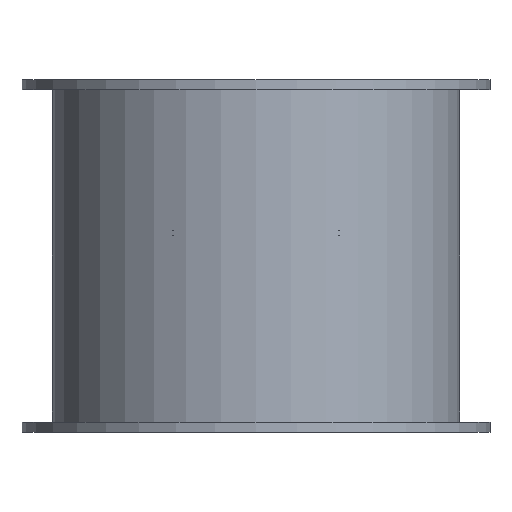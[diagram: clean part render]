
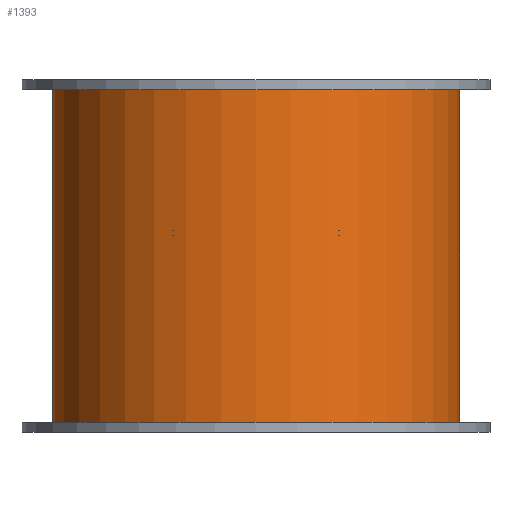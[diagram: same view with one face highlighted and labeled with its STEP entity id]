
A CAD part, left-side view. The second image highlights one B-rep face of the part: STEP entity #1393.
In plain terms, the highlighted cylindrical face has radius 40.5 mm (diameter 81 mm), a full revolution.
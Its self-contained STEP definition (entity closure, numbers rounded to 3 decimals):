
#607=CARTESIAN_POINT('',(-40.5,0.,-33.0));
#608=VERTEX_POINT('',#607);
#609=CARTESIAN_POINT('',(0.0,0.0,-33.0));
#610=DIRECTION('',(0.0,0.0,1.0));
#611=DIRECTION('',(-1.0,0.0,0.0));
#612=AXIS2_PLACEMENT_3D('',#609,#610,#611);
#613=CIRCLE('',#612,40.5);
#614=EDGE_CURVE('',#608,#608,#613,.T.);
#655=CARTESIAN_POINT('',(40.5,0.,33.0));
#656=VERTEX_POINT('',#655);
#657=CARTESIAN_POINT('',(0.0,0.0,33.0));
#658=DIRECTION('',(0.0,0.0,-1.0));
#659=DIRECTION('',(-1.0,0.0,0.0));
#660=AXIS2_PLACEMENT_3D('',#657,#658,#659);
#661=CIRCLE('',#660,40.5);
#662=EDGE_CURVE('',#656,#656,#661,.T.);
#1044=CARTESIAN_POINT('',(35.217,-20.,7.));
#1045=VERTEX_POINT('',#1044);
#1046=CARTESIAN_POINT('',(35.217,20.,7.));
#1047=VERTEX_POINT('',#1046);
#1048=CARTESIAN_POINT('',(0.0,0.0,7.));
#1049=DIRECTION('',(0.0,0.0,1.0));
#1050=DIRECTION('',(-1.0,0.0,0.0));
#1051=AXIS2_PLACEMENT_3D('',#1048,#1049,#1050);
#1052=CIRCLE('',#1051,40.5);
#1053=EDGE_CURVE('',#1045,#1047,#1052,.T.);
#1088=CARTESIAN_POINT('',(31.863,-25.0,2.));
#1089=VERTEX_POINT('',#1088);
#1090=CARTESIAN_POINT('',(0.0,0.0,27.));
#1091=DIRECTION('',(0.0,-0.707,0.707));
#1092=DIRECTION('',(0.0,-0.707,-0.707));
#1093=AXIS2_PLACEMENT_3D('',#1090,#1091,#1092);
#1094=ELLIPSE('',#1093,57.276,40.5);
#1095=EDGE_CURVE('',#1089,#1045,#1094,.T.);
#1120=CARTESIAN_POINT('',(31.863,25.0,2.));
#1121=VERTEX_POINT('',#1120);
#1122=CARTESIAN_POINT('',(0.0,0.0,27.));
#1123=DIRECTION('',(0.0,0.707,0.707));
#1124=DIRECTION('',(0.0,-0.707,0.707));
#1125=AXIS2_PLACEMENT_3D('',#1122,#1123,#1124);
#1126=ELLIPSE('',#1125,57.276,40.5);
#1127=EDGE_CURVE('',#1047,#1121,#1126,.T.);
#1152=CARTESIAN_POINT('',(0.0,-40.5,2.));
#1153=VERTEX_POINT('',#1152);
#1154=CARTESIAN_POINT('',(0.0,0.0,2.));
#1155=DIRECTION('',(0.0,0.0,1.0));
#1156=DIRECTION('',(-1.0,0.0,0.0));
#1157=AXIS2_PLACEMENT_3D('',#1154,#1155,#1156);
#1158=CIRCLE('',#1157,40.5);
#1159=EDGE_CURVE('',#1153,#1089,#1158,.T.);
#1184=CARTESIAN_POINT('',(0.0,40.5,2.));
#1185=VERTEX_POINT('',#1184);
#1186=CARTESIAN_POINT('',(0.0,0.0,2.));
#1187=DIRECTION('',(0.0,0.0,1.0));
#1188=DIRECTION('',(-1.0,0.0,0.0));
#1189=AXIS2_PLACEMENT_3D('',#1186,#1187,#1188);
#1190=CIRCLE('',#1189,40.5);
#1191=EDGE_CURVE('',#1121,#1185,#1190,.T.);
#1216=CARTESIAN_POINT('',(0.0,40.5,-2.));
#1217=VERTEX_POINT('',#1216);
#1218=CARTESIAN_POINT('',(0.0,-40.5,-2.));
#1219=VERTEX_POINT('',#1218);
#1220=CARTESIAN_POINT('',(0.0,0.0,-2.));
#1221=DIRECTION('',(0.0,0.0,-1.0));
#1222=DIRECTION('',(-1.0,0.0,0.0));
#1223=AXIS2_PLACEMENT_3D('',#1220,#1221,#1222);
#1224=CIRCLE('',#1223,40.5);
#1225=EDGE_CURVE('',#1217,#1219,#1224,.T.);
#1257=CARTESIAN_POINT('',(0.0,40.5,-2.));
#1258=DIRECTION('',(0.0,0.0,1.0));
#1259=VECTOR('',#1258,4.);
#1260=LINE('',#1257,#1259);
#1261=EDGE_CURVE('',#1217,#1185,#1260,.T.);
#1279=CARTESIAN_POINT('',(0.0,-40.5,-2.));
#1280=DIRECTION('',(0.0,0.0,1.0));
#1281=VECTOR('',#1280,4.0);
#1282=LINE('',#1279,#1281);
#1283=EDGE_CURVE('',#1219,#1153,#1282,.T.);
#1372=CARTESIAN_POINT('',(0.0,0.0,0.0));
#1373=DIRECTION('',(0.0,0.0,1.0));
#1374=DIRECTION('',(-1.0,0.0,0.0));
#1375=AXIS2_PLACEMENT_3D('',#1372,#1373,#1374);
#1376=CYLINDRICAL_SURFACE('',#1375,40.5);
#1377=ORIENTED_EDGE('',*,*,#614,.T.);
#1378=EDGE_LOOP('',(#1377));
#1379=FACE_OUTER_BOUND('',#1378,.T.);
#1380=ORIENTED_EDGE('',*,*,#662,.T.);
#1381=EDGE_LOOP('',(#1380));
#1382=FACE_BOUND('',#1381,.T.);
#1383=ORIENTED_EDGE('',*,*,#1225,.T.);
#1384=ORIENTED_EDGE('',*,*,#1283,.T.);
#1385=ORIENTED_EDGE('',*,*,#1159,.T.);
#1386=ORIENTED_EDGE('',*,*,#1095,.T.);
#1387=ORIENTED_EDGE('',*,*,#1053,.T.);
#1388=ORIENTED_EDGE('',*,*,#1127,.T.);
#1389=ORIENTED_EDGE('',*,*,#1191,.T.);
#1390=ORIENTED_EDGE('',*,*,#1261,.F.);
#1391=EDGE_LOOP('',(#1383,#1384,#1385,#1386,#1387,#1388,#1389,#1390));
#1392=FACE_BOUND('',#1391,.T.);
#1393=ADVANCED_FACE('',(#1379,#1382,#1392),#1376,.T.);
